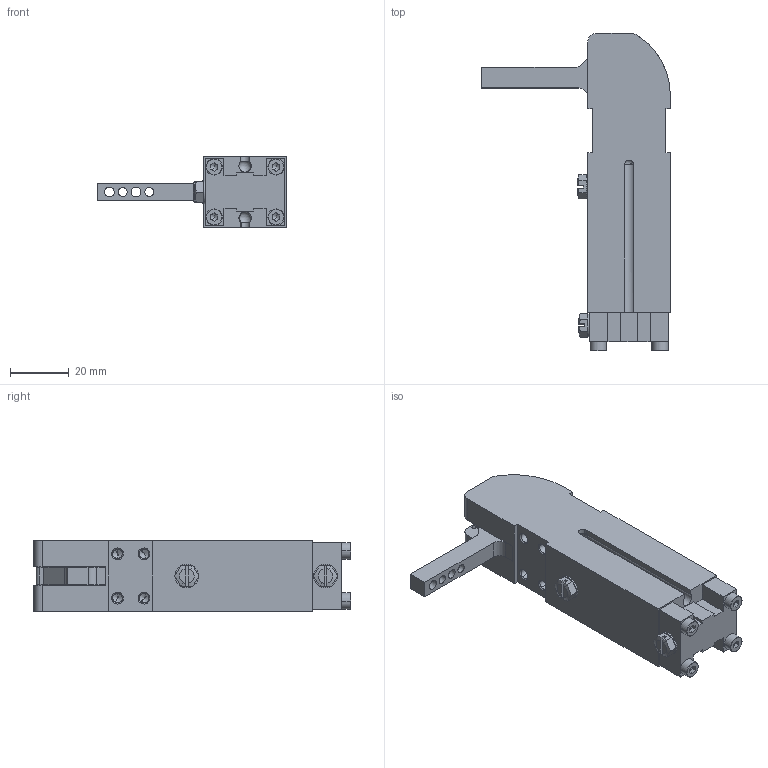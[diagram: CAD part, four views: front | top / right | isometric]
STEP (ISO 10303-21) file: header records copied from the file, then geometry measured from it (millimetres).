
FILE_DESCRIPTION(('CATIA V5 STEP Exchange'),'2;1');
FILE_NAME('\\Kjf-102\kjf_tc\Hydraulic_Clamp\Standard\POWER AIR CLAMP\PAC-1206AE\PAC-1206AE.stp','2024-05-20T06:47:30+00:00',('none'),('none'),'CATIA Version 5 Release 19 SP 6 (IN-10)','CATIA V5 STEP AP203','none');
FILE_SCHEMA(('CONFIG_CONTROL_DESIGN'));
Length unit declared in the file: millimetre
Products named in the file (1): PAC-1206AE_-
Assembly tree (11 placements, depth 2):
  PAC-1206AE_-
    #58
    #4114
    #5475
    #6174
    #6608
    #6631  x4
    #7583  x2
Bounding box: 64 x 107.53 x 24 mm (x, y, z)
Volume: 60867.8 mm3; surface area: 21080.5 mm2
Topology: 10 solids, 10 shells, 438 faces, 1095 edges, 678 vertices
Faces by surface type: plane 174, cylinder 158, cone 76, torus 16, sphere 12, extrusion 2
Entity records: 8690 total; most frequent: CARTESIAN_POINT 1761, ORIENTED_EDGE 1510, DIRECTION 1137, EDGE_CURVE 755, AXIS2_PLACEMENT_3D 504, VERTEX_POINT 482, VECTOR 422, LINE 420
